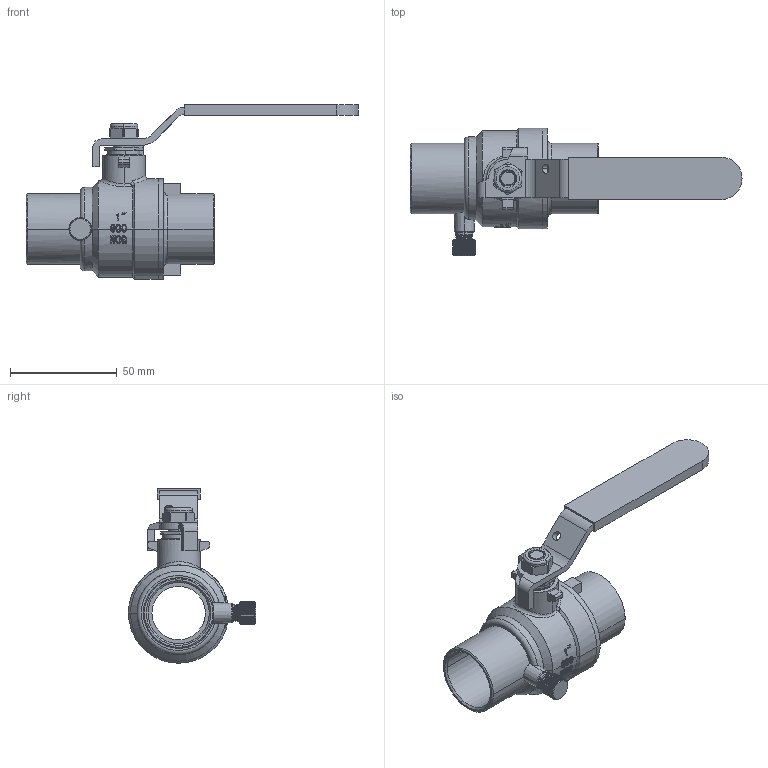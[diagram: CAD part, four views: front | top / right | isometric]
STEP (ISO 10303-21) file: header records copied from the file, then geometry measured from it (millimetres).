
FILE_DESCRIPTION(('Open CASCADE Model'),'2;1');
FILE_NAME('Open CASCADE Shape Model','2021-12-15T09:38:47',('Author'),( 'Open CASCADE'),'Open CASCADE STEP processor 7.3','Open CASCADE 7.3' ,'Unknown');
FILE_SCHEMA(('AUTOMOTIVE_DESIGN { 1 0 10303 214 1 1 1 1 }'));
Length unit declared in the file: millimetre
Products named in the file (15): Open CASCADE STEP translator 7.3 1; Open CASCADE STEP translator 7.3 1.1; Open CASCADE STEP translator 7.3 1.2; Open CASCADE STEP translator 7.3 1.3; Open CASCADE STEP translator 7.3 1.4; Open CASCADE STEP translator 7.3 1.5; Open CASCADE STEP translator 7.3 1.6; Open CASCADE STEP translator 7.3 1.7; Open CASCADE STEP translator 7.3 1.8; Open CASCADE STEP translator 7.3 1.9; Open CASCADE STEP translator 7.3 1.10; Open CASCADE STEP translator 7.3 1.11; Open CASCADE STEP translator 7.3 1.12; Open CASCADE STEP translator 7.3 1.13; Open CASCADE STEP translator 7.3 1.14
Assembly tree (14 placements, depth 2):
  Open CASCADE STEP translator 7.3 1
    Open CASCADE STEP translator 7.3 1.1
    Open CASCADE STEP translator 7.3 1.2
    Open CASCADE STEP translator 7.3 1.3
    Open CASCADE STEP translator 7.3 1.4
    Open CASCADE STEP translator 7.3 1.5
    Open CASCADE STEP translator 7.3 1.6
    Open CASCADE STEP translator 7.3 1.7
    Open CASCADE STEP translator 7.3 1.8
    Open CASCADE STEP translator 7.3 1.9
    Open CASCADE STEP translator 7.3 1.10
    Open CASCADE STEP translator 7.3 1.11
    Open CASCADE STEP translator 7.3 1.12
    Open CASCADE STEP translator 7.3 1.13
    Open CASCADE STEP translator 7.3 1.14
Bounding box: 155.3 x 59.5 x 81.65 mm (x, y, z)
Volume: 65628.2 mm3; surface area: 48908.5 mm2
Topology: 14 solids, 14 shells, 901 faces, 2474 edges, 1621 vertices
Faces by surface type: cylinder 410, plane 238, bspline 140, cone 77, torus 30, sphere 6
Entity records: 137214 total; most frequent: CARTESIAN_POINT 93941, DIRECTION 6194, ORIENTED_EDGE 4944, PCURVE 4944, DEFINITIONAL_REPRESENTATION 4944, LINE 3221, VECTOR 3221, B_SPLINE_CURVE_WITH_KNOTS 3040
